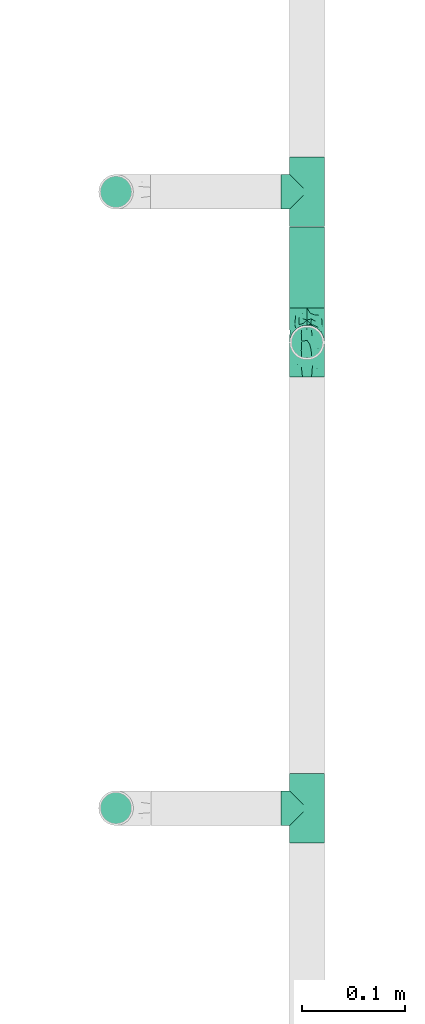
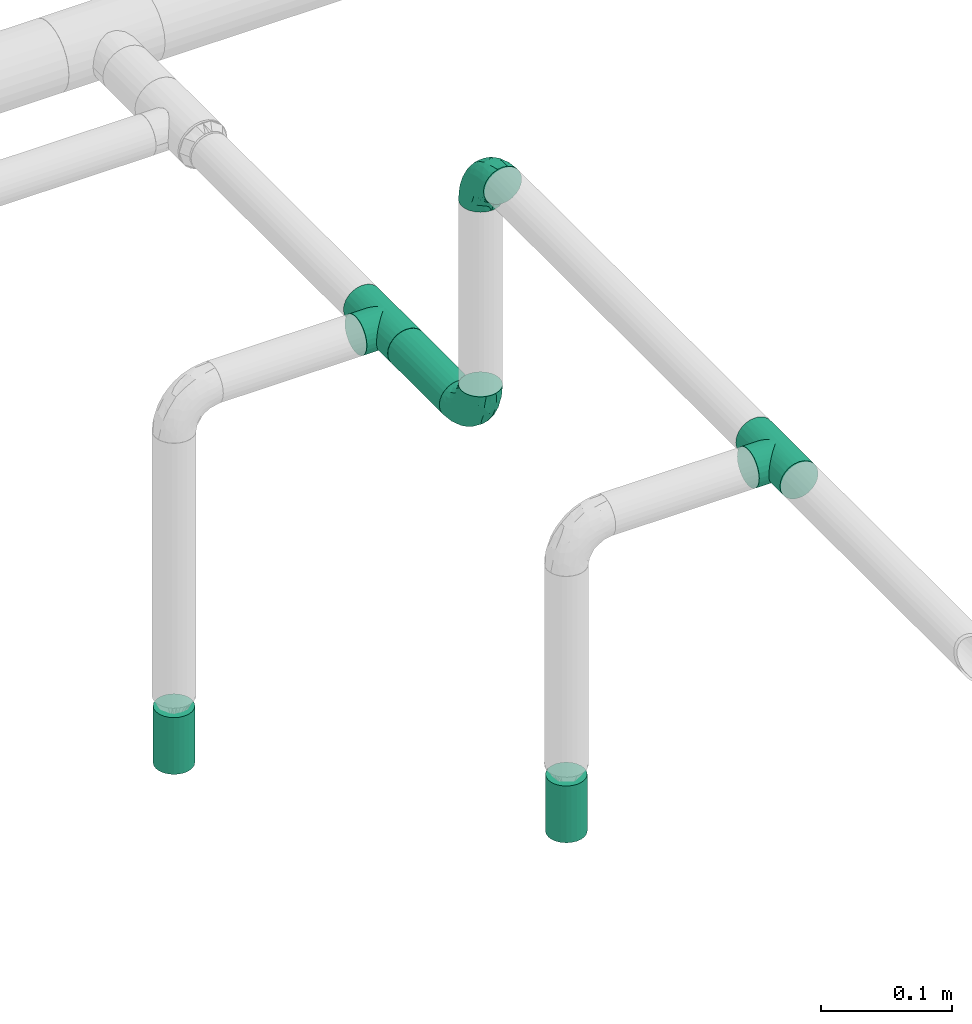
# One storey, part 55 of 157: 4 flow fittings, 2 flow terminals, 1 flow segment.
"""IFC2X3 building model written with IfcOpenShell, lengths in millimetres."""

from ifc_helpers import new_model, entity, si_unit, converted_unit, derived_unit, direction, frame, origin_with_axes, origin_2d_with_axis, place, context, subcontext, project, spatial, hollow_circle, extrude, open_shell, surface_model, source, transform, mapped, type_object, element, save


model = new_model("IFC2X3")

# Units and contexts
model_context = context("Model", 3, precision=0.01, world=frame((0.0, 4.29681676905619e-09, 0.0)), true_north=direction((4.01073788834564e-13, 1.0)))
plan_context = context("Plan", 3, precision=0.01, world=frame((0.0, 4.29681676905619e-09, 0.0)), true_north=direction((4.01073788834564e-13, 1.0)))
body_context = subcontext(model_context, "Body", "Model", "MODEL_VIEW")
ifc_project = project(units=[converted_unit("PLANEANGLEUNIT", "DEGREE", entity("IfcPositiveLengthMeasure", 0.0174532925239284), si_unit("PLANEANGLEUNIT", "RADIAN"), dimensions=[0, 0, 0, 0, 0, 0, 0]), si_unit("AREAUNIT", "SQUARE_METRE"), si_unit("LENGTHUNIT", "METRE", prefix="MILLI"), si_unit("MASSUNIT", "GRAM", prefix="KILO"), si_unit("POWERUNIT", "WATT"), si_unit("PRESSUREUNIT", "PASCAL"), si_unit("FORCEUNIT", "NEWTON", prefix="KILO"), si_unit("ELECTRICCURRENTUNIT", "AMPERE"), si_unit("THERMODYNAMICTEMPERATUREUNIT", "DEGREE_CELSIUS"), si_unit("TIMEUNIT", "SECOND"), si_unit("VOLUMEUNIT", "CUBIC_METRE"), derived_unit("LINEARVELOCITYUNIT", [(si_unit("LENGTHUNIT", "METRE"), 1), (si_unit("TIMEUNIT", "SECOND"), -1)]), derived_unit("VOLUMETRICFLOWRATEUNIT", [(si_unit("VOLUMEUNIT", "CUBIC_METRE"), 1), (si_unit("TIMEUNIT", "SECOND"), -1)]), derived_unit("THERMALTRANSMITTANCEUNIT", [(si_unit("POWERUNIT", "WATT"), 1), (si_unit("THERMODYNAMICTEMPERATUREUNIT", "KELVIN"), -1), (si_unit("AREAUNIT", "SQUARE_METRE"), -1)])], contexts=[model_context, plan_context])

# Site, building, storey
site_placement = place(None, frame((0.0, -4.29681676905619e-09, 0.0), z_axis=(0.0, 0.0, 1.0), x_axis=(1.0, 0.0, 0.0)))
site = spatial("IfcSite", under=ifc_project, at=site_placement, CompositionType="ELEMENT")
building_placement = place(site_placement, frame((0.0, 4.29681676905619e-09, 0.0), z_axis=(0.0, 0.0, 1.0), x_axis=(1.0, 0.0, 0.0)))
building = spatial("IfcBuilding", under=site, at=building_placement, Name="mc-building", CompositionType="ELEMENT")
storey_placement = place(building_placement, frame((0.0, 0.0, 204000.0), z_axis=(0.0, 0.0, 1.0), x_axis=(1.0, 0.0, 0.0)))
storey = spatial("IfcBuildingStorey", under=building, at=storey_placement, Name="Nivå D", CompositionType="ELEMENT", Elevation=204000.0)

# Flow fittings
pipe_fitting_type_1 = type_object("IfcPipeFittingType", Name="magi_pipe_fe_tee_centric_90_NOR", PredefinedType="JUNCTION")
shared_shape_1 = source(origin_with_axes(), body_context, "Body", "SurfaceModel", [
    surface_model("IfcShellBasedSurfaceModel", [(-33.8, 4.37404, -16.32415), (-33.8, 0.0, -16.9), (-33.8, 16.32415, -4.37404), (-33.8, 8.45, -14.63583), (-33.8, 11.9501, -11.9501), (-33.8, 14.63583, -8.45), (-33.8, -16.9, 0.0), (-33.8, -11.9501, -11.9501), (-33.8, -14.63583, -8.45), (-33.8, -8.45, -14.63583), (-33.8, -4.37404, -16.32415), (-33.8, -16.32415, -4.37404), (-33.8, 14.63583, 8.45), (-33.8, 16.32415, 4.37404), (-33.8, -8.45, 14.63583), (-33.8, 8.45, 14.63583), (-33.8, 11.9501, 11.9501), (-33.8, 4.37404, 16.32415), (-33.8, 0.0, 16.9), (-33.8, -11.9501, 11.9501), (-33.8, -14.63583, 8.45), (-33.8, -16.32415, 4.37404), (-33.8, -4.37404, 16.32415), (-33.8, 16.9, 0.0), (33.8, 4.37404, -16.32415), (33.8, -16.9, 0.0), (33.8, 0.0, -16.9), (33.8, 14.63583, -8.45), (33.8, 8.45, -14.63583), (33.8, 16.32415, -4.37404), (33.8, 11.9501, -11.9501), (33.8, -16.32415, 4.37404), (33.8, -8.45, -14.63583), (33.8, -4.37404, -16.32415), (33.8, -11.9501, -11.9501), (33.8, -14.63583, -8.45), (33.8, -16.32415, -4.37404), (33.8, 16.32415, 4.37404), (33.8, 8.45, 14.63583), (33.8, 14.63583, 8.45), (33.8, 11.9501, 11.9501), (33.8, -8.45, 14.63583), (33.8, 4.37404, 16.32415), (33.8, -14.63583, 8.45), (33.8, -11.9501, 11.9501), (33.8, 0.0, 16.9), (33.8, -4.37404, 16.32415), (33.8, 16.9, 0.0), (16.28698, -16.28698, 4.51047), (16.9, -16.9, 0.0), (14.62704, -14.62704, 8.4652), (9.47213, -9.47213, 13.99602), (12.26343, -12.26343, 11.62834), (-16.9, -16.9, 0.0), (-16.28698, -16.28698, 4.51047), (-14.62704, -14.62704, 8.4652), (-12.26343, -12.26343, 11.62834), (-9.47213, -9.47213, 13.99602), (-6.42894, -6.42894, 15.62942), (6.42894, -6.42894, 15.62942), (3.24522, -3.24522, 16.58549), (0.0, 0.0, 16.9), (-3.24522, -3.24522, 16.58549), (3.24522, -3.24522, -16.58549), (0.0, 0.0, -16.9), (-3.24522, -3.24522, -16.58549), (-6.42894, -6.42894, -15.62942), (6.42894, -6.42894, -15.62942), (9.47213, -9.47213, -13.99602), (12.26343, -12.26343, -11.62834), (14.62704, -14.62704, -8.4652), (16.28698, -16.28698, -4.51047), (-9.47213, -9.47213, -13.99602), (-12.26343, -12.26343, -11.62834), (-16.28698, -16.28698, -4.51047), (-14.62704, -14.62704, -8.4652), (4.37404, -25.35, -16.32415), (-16.9, -25.35, 0.0), (0.0, -25.35, -16.9), (14.63583, -25.35, -8.45), (8.45, -25.35, -14.63583), (16.32415, -25.35, -4.37404), (11.9501, -25.35, -11.9501), (-11.9501, -25.35, -11.9501), (-8.45, -25.35, -14.63583), (-4.37404, -25.35, -16.32415), (-14.63583, -25.35, -8.45), (-16.32415, -25.35, -4.37404), (16.9, -25.35, 0.0), (8.45, -25.35, 14.63583), (16.32415, -25.35, 4.37404), (14.63583, -25.35, 8.45), (-8.45, -25.35, 14.63583), (11.9501, -25.35, 11.9501), (4.37404, -25.35, 16.32415), (-16.32415, -25.35, 4.37404), (-11.9501, -25.35, 11.9501), (-14.63583, -25.35, 8.45), (0.0, -25.35, 16.9), (-4.37404, -25.35, 16.32415)], [open_shell([[[0, 1, 2]], [[3, 0, 4]], [[0, 2, 5]], [[4, 0, 5]], [[6, 2, 1]], [[7, 8, 9]], [[1, 10, 9]], [[11, 6, 8]], [[1, 9, 8]], [[1, 8, 6]], [[6, 12, 2]], [[12, 13, 2]], [[14, 12, 6]], [[12, 14, 15]], [[16, 12, 15]], [[17, 15, 18]], [[19, 14, 20]], [[21, 20, 14]], [[22, 18, 14]], [[14, 6, 21]], [[14, 18, 15]], [[23, 2, 13]], [[24, 25, 26]], [[27, 24, 28]], [[27, 29, 24]], [[27, 28, 30]], [[31, 25, 24]], [[26, 32, 33]], [[26, 34, 32]], [[35, 25, 36]], [[35, 34, 26]], [[25, 35, 26]], [[24, 29, 31]], [[29, 37, 38]], [[38, 37, 39]], [[38, 31, 29]], [[38, 39, 40]], [[41, 38, 42]], [[43, 41, 44]], [[41, 43, 31]], [[41, 45, 46]], [[41, 31, 38]], [[42, 45, 41]], [[29, 47, 37]], [[31, 43, 48]], [[25, 31, 49]], [[49, 31, 48]], [[43, 50, 48]], [[44, 41, 51]], [[50, 43, 52]], [[51, 52, 44]], [[52, 43, 44]], [[53, 54, 21]], [[53, 21, 6]], [[21, 54, 20]], [[54, 55, 20]], [[56, 57, 19]], [[19, 20, 56]], [[19, 57, 14]], [[56, 20, 55]], [[14, 57, 58]], [[51, 41, 59]], [[60, 45, 61]], [[59, 46, 60]], [[46, 59, 41]], [[60, 46, 45]], [[61, 45, 42]], [[39, 37, 13]], [[16, 38, 40]], [[12, 40, 39]], [[42, 38, 15]], [[23, 37, 47]], [[62, 61, 18]], [[62, 22, 58]], [[22, 62, 18]], [[58, 22, 14]], [[61, 17, 18]], [[42, 17, 61]], [[15, 17, 42]], [[15, 38, 16]], [[12, 16, 40]], [[13, 12, 39]], [[37, 23, 13]], [[5, 27, 30]], [[23, 47, 29]], [[30, 28, 3]], [[27, 2, 29]], [[26, 33, 63]], [[26, 64, 24]], [[64, 26, 63]], [[28, 24, 0]], [[64, 0, 24]], [[4, 30, 3]], [[2, 27, 5]], [[5, 30, 4]], [[2, 23, 29]], [[65, 66, 10]], [[1, 0, 64]], [[1, 65, 10]], [[66, 9, 10]], [[0, 3, 28]], [[1, 64, 65]], [[63, 33, 67]], [[32, 34, 68]], [[69, 68, 34]], [[35, 70, 69]], [[69, 34, 35]], [[32, 68, 67]], [[36, 25, 49]], [[36, 71, 35]], [[71, 36, 49]], [[35, 71, 70]], [[72, 9, 66]], [[72, 7, 9]], [[7, 72, 73]], [[7, 73, 8]], [[74, 53, 11]], [[75, 74, 8]], [[74, 11, 8]], [[11, 53, 6]], [[75, 8, 73]], [[32, 67, 33]], [[76, 77, 78]], [[79, 76, 80]], [[79, 81, 76]], [[79, 80, 82]], [[77, 76, 81]], [[78, 83, 84]], [[84, 85, 78]], [[86, 77, 87]], [[83, 78, 86]], [[77, 86, 78]], [[81, 88, 77]], [[89, 88, 90]], [[89, 90, 91]], [[92, 77, 89]], [[89, 91, 93]], [[92, 89, 94]], [[95, 96, 97]], [[96, 95, 92]], [[92, 98, 99]], [[95, 77, 92]], [[94, 98, 92]], [[89, 77, 88]], [[77, 95, 53]], [[54, 53, 95]], [[97, 96, 56]], [[96, 92, 57]], [[95, 97, 54]], [[58, 92, 99]], [[55, 54, 97]], [[56, 55, 97]], [[58, 57, 92]], [[98, 61, 62]], [[58, 99, 62]], [[56, 96, 57]], [[62, 99, 98]], [[94, 60, 98]], [[89, 59, 94]], [[91, 90, 48]], [[52, 93, 91]], [[93, 51, 89]], [[49, 90, 88]], [[59, 60, 94]], [[51, 59, 89]], [[49, 48, 90]], [[50, 52, 91]], [[48, 50, 91]], [[51, 93, 52]], [[98, 60, 61]], [[88, 81, 49]], [[71, 49, 81]], [[79, 82, 69]], [[82, 80, 68]], [[81, 79, 71]], [[67, 80, 76]], [[70, 71, 79]], [[69, 70, 79]], [[67, 68, 80]], [[78, 64, 63]], [[67, 76, 63]], [[69, 82, 68]], [[63, 76, 78]], [[85, 65, 78]], [[84, 66, 85]], [[86, 87, 74]], [[86, 73, 83]], [[72, 84, 83]], [[53, 87, 77]], [[66, 65, 85]], [[72, 66, 84]], [[53, 74, 87]], [[75, 73, 86]], [[74, 75, 86]], [[72, 83, 73]], [[78, 65, 64]]])]),
])
for number, where, z_axis, x_axis, name in (
    (1, (518685.97464, 413000.0, 2930.0), (0.0, 0.0, -1.0), (0.0, 1.0, 0.0), "magi_pipe_fe_tee_centric_90_NOR"),
    (2, (518685.97464, 413600.0, 2690.0), (0.0, 0.0, 1.0), (0.0, -1.0, 0.0), "magi_pipe_fe_tee_centric_90_NOR"),
):
    element("IfcFlowFitting", number, at=place(storey_placement, frame(where, z_axis=z_axis, x_axis=x_axis)), inside=storey, type_object=pipe_fitting_type_1, Name=name, context=body_context, shape_type="MappedRepresentation", body=[
        mapped(shared_shape_1, transform((0.0, 0.0, 0.0), scale=1.0)),
    ])
pipe_fitting_type_2 = type_object("IfcPipeFittingType", Name="magi_pipe_fe_elbow_short_001", PredefinedType="BEND")
shared_shape_2 = source(origin_with_axes(), body_context, "Body", "SurfaceModel", [
    surface_model("IfcShellBasedSurfaceModel", [(-33.8, 8.45, -14.63583), (-33.8, 4.37404, -16.32415), (-33.8, 11.9501, -11.9501), (-33.8, -11.9501, -11.9501), (-33.8, -14.63583, -8.45), (-33.8, -8.45, -14.63583), (-33.8, 0.0, -16.9), (-33.8, -4.37404, -16.32415), (-33.8, -4.37404, 16.32415), (-33.8, 0.0, 16.9), (-33.8, -8.45, 14.63583), (-33.8, 16.32415, -4.37404), (-33.8, 14.63583, -8.45), (-33.8, -16.32415, -4.37404), (-33.8, -16.9, 0.0), (-33.8, -16.32415, 4.37404), (-33.8, 11.9501, 11.9501), (-33.8, 14.63583, 8.45), (-33.8, 16.32415, 4.37404), (-33.8, 4.37404, 16.32415), (-33.8, 8.45, 14.63583), (-33.8, -14.63583, 8.45), (-33.8, -11.9501, 11.9501), (-33.8, 16.9, 0.0), (-11.9501, 33.8, -11.9501), (0.0, 33.8, -16.9), (-4.37404, 33.8, -16.32415), (-8.45, 33.8, -14.63583), (-14.63583, 33.8, -8.45), (-16.32415, 33.8, -4.37404), (14.63583, 33.8, -8.45), (8.45, 33.8, 14.63583), (16.32415, 33.8, -4.37404), (8.45, 33.8, -14.63583), (11.9501, 33.8, -11.9501), (4.37404, 33.8, -16.32415), (16.32415, 33.8, 4.37404), (16.9, 33.8, 0.0), (-11.9501, 33.8, 11.9501), (-16.32415, 33.8, 4.37404), (-14.63583, 33.8, 8.45), (-8.45, 33.8, 14.63583), (-4.37404, 33.8, 16.32415), (11.9501, 33.8, 11.9501), (14.63583, 33.8, 8.45), (0.0, 33.8, 16.9), (4.37404, 33.8, 16.32415), (-16.9, 33.8, 0.0), (-24.79389, -13.12945, 9.48721), (-22.19287, -9.75018, 12.59315), (-24.09897, -14.97035, 0.0), (-14.93934, -10.76256, 8.5297), (-22.46095, -14.75051, 5.27077), (14.75051, 22.46094, 5.27077), (11.9251, 13.23888, 4.33236), (13.04069, 14.39795, 0.0), (7.71387, 13.68847, 11.55891), (9.75018, 22.19287, 12.59315), (4.10169, 13.0571, 14.04018), (-24.84007, -6.39063, 15.2048), (-25.81779, -2.23879, 16.61097), (-23.66549, 2.59054, 16.87119), (-26.50418, 14.06512, 11.08152), (-24.21253, 17.66365, 7.72657), (-29.58514, 15.86957, 7.00283), (-6.17382, -7.5455, 0.0), (-13.23888, -11.9251, 4.33236), (-14.39795, -13.04069, 0.0), (-17.81434, 18.87373, 11.97104), (-6.30846, 29.15138, 15.82987), (-2.31622, 25.28002, 16.85849), (-29.23923, 10.23435, 13.77053), (-1.45439, -2.85688, 7.61475), (-0.28326, 0.34872, 10.09509), (-5.74484, -4.04709, 10.4122), (-4.41137, 11.31918, 16.59407), (-8.39727, 3.10034, 15.7812), (-1.72649, 9.1306, 15.53089), (-17.39909, 24.75344, 7.64977), (-26.19233, 20.0512, 0.0), (-28.14518, 17.29657, 4.25857), (-26.05147, 6.6281, 15.96447), (-5.87354, 16.61944, 16.86968), (-12.51807, 12.51807, 16.48937), (-10.06312, 7.38516, 16.81295), (-3.01882, 3.01882, 13.81718), (-13.0571, -4.10169, 14.04018), (-16.82553, -0.15166, 16.38038), (10.76256, 14.93934, 8.5297), (13.12945, 24.79389, 9.48721), (6.39063, 24.84007, 15.2048), (2.23879, 25.81779, 16.61097), (-13.68847, -7.71387, 11.55891), (14.97035, 24.09897, 0.0), (-7.30894, 22.89991, 16.09489), (-10.67958, 26.17414, 14.008), (-12.78295, 18.26924, 15.06066), (-13.88562, 22.45231, 12.93244), (-18.04944, 15.16501, 14.04434), (-23.11658, 20.08178, 4.02986), (-21.84989, 21.84989, 0.0), (-18.55817, 25.48277, 3.93065), (-13.95142, 26.94732, 11.03289), (-18.57098, 7.23906, 16.59756), (-16.58335, 4.14122, 16.89279), (-17.96666, 11.46709, 15.63151), (-9.84453, 17.54304, 16.18938), (0.15166, 16.82553, 16.38038), (-23.27207, 11.47201, 14.23154), (3.84842, 5.86994, 10.70473), (-8.0212, -7.54413, 7.93275), (1.00345, -2.19508, 4.57414), (5.13203, 3.01004, 5.90201), (5.24161, 1.7543, 2.53265), (8.70457, 7.04947, 3.99182), (-20.0512, 26.19233, 0.0), (8.4852, 8.76699, 7.09296), (-4.55488, -6.72064, 4.90681), (2.05031, -2.05031, 0.0), (7.5455, 6.17382, 0.0), (-26.75399, 2.1369, -16.845), (-14.61995, 24.73803, -11.27736), (-28.45274, -13.45335, -9.81895), (-26.00469, 6.63555, -15.96645), (-23.06726, 20.04573, -4.26202), (-13.80647, -4.26506, -14.17873), (-14.67501, -0.21081, -16.07388), (-6.7902, -0.2828, -13.8478), (-24.53586, 11.08096, -14.13417), (-26.72048, 14.00837, -11.05776), (10.0967, 24.44989, -12.75976), (5.83237, 21.40218, -15.03047), (6.66249, 28.54238, -15.38093), (-20.38182, 15.48705, -12.74596), (12.53268, 21.23441, -9.15363), (12.54494, 15.67504, -5.54878), (9.7522, 12.89279, -8.66343), (-15.65186, 19.64213, -13.01327), (-12.03528, 20.66498, -14.67665), (-15.61907, 15.61906, -14.83879), (-25.56551, -15.26206, 0.0), (-24.65452, -15.12934, -5.50955), (13.45335, 28.45274, -9.81895), (15.12934, 24.65452, -5.50955), (-7.35442, -8.31014, -5.65563), (-15.67504, -12.54494, -5.54878), (-24.44989, -10.0967, -12.75976), (0.16522, 0.41303, -9.71728), (-5.70658, -5.33066, -8.89288), (-5.13869, -2.37198, -11.53565), (-21.23441, -12.53268, -9.15363), (0.71146, 7.93863, -14.09382), (0.21081, 14.67501, -16.07388), (3.49291, 14.42772, -14.76381), (-24.89911, -2.13088, -16.591), (-28.54238, -6.66249, -15.38093), (-18.44386, -7.71663, -13.26957), (2.13088, 24.89911, -16.591), (-28.64342, 17.44413, -2.89318), (1.70017, -1.28722, -5.09504), (-16.57067, 26.81947, -7.36596), (-17.69055, 27.4263, -3.76405), (-12.89279, -9.7522, -8.66343), (-5.96611, 5.96611, -15.95814), (-20.53709, 20.09345, -8.28985), (-2.1369, 26.75399, -16.845), (-6.89872, 24.58781, -16.02578), (-10.60739, 26.53157, -13.98044), (-21.40218, -5.83237, -15.03047), (2.93192, 5.89627, -11.55917), (6.89393, 12.61842, -11.82233), (5.58056, 5.95325, -8.79455), (-3.99512, 18.61798, -16.89635), (8.31014, 7.35442, -5.65563), (-9.1383, 9.86148, -16.89041), (-9.99983, 16.02119, -16.39699), (-16.68576, 9.78031, -16.34199), (-27.01915, 16.61158, -7.12979), (15.26206, 25.56551, 0.0), (-18.61798, 3.99512, -16.89635), (-19.37495, 27.82495, 0.0), (-12.61842, -6.89393, -11.82233), (-18.84705, 19.14018, -10.96545)], [open_shell([[[0, 1, 2]], [[3, 4, 5]], [[6, 7, 5]], [[8, 9, 10]], [[1, 6, 2]], [[11, 12, 2]], [[4, 2, 6]], [[2, 13, 10]], [[5, 4, 6]], [[2, 4, 13]], [[14, 15, 13]], [[11, 2, 16]], [[11, 17, 18]], [[11, 16, 17]], [[19, 20, 16]], [[16, 2, 10]], [[19, 16, 10]], [[21, 22, 15]], [[22, 13, 15]], [[22, 10, 13]], [[10, 9, 19]], [[11, 18, 23]], [[24, 25, 26]], [[24, 26, 27]], [[24, 28, 29]], [[25, 24, 30]], [[31, 32, 24]], [[33, 30, 34]], [[33, 35, 25]], [[25, 30, 33]], [[32, 30, 24]], [[32, 36, 37]], [[38, 24, 29]], [[39, 40, 29]], [[40, 38, 29]], [[38, 41, 42]], [[38, 31, 24]], [[31, 38, 42]], [[36, 43, 44]], [[36, 32, 43]], [[31, 45, 46]], [[32, 31, 43]], [[42, 45, 31]], [[39, 29, 47]], [[22, 48, 49]], [[15, 14, 50]], [[51, 48, 52]], [[53, 54, 55]], [[48, 22, 21]], [[15, 52, 21]], [[56, 57, 58]], [[49, 10, 22]], [[49, 59, 10]], [[9, 60, 61]], [[62, 63, 64]], [[65, 66, 67]], [[57, 43, 31]], [[62, 68, 63]], [[42, 69, 70]], [[20, 71, 16]], [[8, 60, 9]], [[72, 73, 74]], [[75, 76, 77]], [[16, 62, 17]], [[40, 39, 78]], [[79, 23, 80]], [[64, 18, 17]], [[9, 61, 19]], [[19, 81, 20]], [[82, 83, 84]], [[74, 85, 86]], [[59, 86, 87]], [[88, 89, 57]], [[90, 31, 46]], [[44, 53, 36]], [[46, 45, 91]], [[54, 53, 88]], [[44, 89, 53]], [[92, 86, 49]], [[89, 44, 43]], [[10, 59, 8]], [[53, 55, 93]], [[93, 36, 53]], [[66, 52, 67]], [[94, 82, 70]], [[95, 96, 94]], [[97, 98, 96]], [[79, 99, 100]], [[41, 38, 95]], [[101, 100, 99]], [[68, 78, 63]], [[42, 41, 69]], [[23, 18, 80]], [[95, 94, 69]], [[78, 101, 99]], [[38, 102, 95]], [[70, 45, 42]], [[97, 95, 102]], [[15, 50, 52]], [[90, 57, 31]], [[57, 90, 58]], [[81, 19, 61]], [[103, 104, 84]], [[105, 81, 103]], [[38, 40, 102]], [[106, 96, 83]], [[94, 106, 82]], [[91, 70, 107]], [[71, 62, 16]], [[62, 108, 98]], [[86, 59, 49]], [[67, 52, 50]], [[60, 59, 87]], [[92, 49, 51]], [[86, 85, 76]], [[91, 90, 46]], [[37, 36, 93]], [[107, 77, 58]], [[107, 58, 90]], [[58, 85, 109]], [[110, 74, 92]], [[72, 74, 110]], [[66, 51, 52]], [[72, 111, 112]], [[113, 114, 112]], [[56, 88, 57]], [[52, 48, 21]], [[49, 48, 51]], [[57, 89, 43]], [[53, 89, 88]], [[103, 81, 61]], [[71, 81, 108]], [[18, 64, 80]], [[63, 78, 99]], [[47, 115, 101]], [[101, 115, 100]], [[40, 78, 102]], [[68, 102, 78]], [[97, 96, 95]], [[105, 98, 108]], [[103, 84, 83]], [[107, 70, 82]], [[76, 84, 87]], [[82, 84, 75]], [[70, 91, 45]], [[90, 91, 107]], [[59, 60, 8]], [[61, 60, 87]], [[73, 85, 74]], [[109, 112, 116]], [[103, 61, 104]], [[105, 103, 83]], [[96, 105, 83]], [[81, 105, 108]], [[96, 98, 105]], [[62, 98, 68]], [[61, 87, 104]], [[87, 84, 104]], [[86, 76, 87]], [[77, 76, 85]], [[58, 77, 85]], [[75, 77, 107]], [[82, 75, 107]], [[76, 75, 84]], [[81, 71, 20]], [[62, 71, 108]], [[95, 69, 41]], [[70, 69, 94]], [[62, 64, 17]], [[80, 63, 99]], [[63, 80, 64]], [[80, 99, 79]], [[66, 65, 117]], [[110, 66, 117]], [[112, 114, 116]], [[118, 117, 65]], [[110, 92, 51]], [[112, 111, 113]], [[119, 55, 54]], [[74, 86, 92]], [[58, 109, 56]], [[116, 56, 109]], [[66, 110, 51]], [[72, 110, 117]], [[111, 72, 117]], [[73, 112, 109]], [[117, 118, 111]], [[113, 111, 118]], [[118, 119, 113]], [[114, 119, 54]], [[119, 114, 113]], [[116, 54, 88]], [[54, 116, 114]], [[116, 88, 56]], [[112, 73, 72]], [[85, 73, 109]], [[78, 39, 101]], [[47, 101, 39]], [[102, 68, 97]], [[97, 68, 98]], [[82, 106, 83]], [[94, 96, 106]], [[1, 120, 6]], [[28, 24, 121]], [[3, 122, 4]], [[0, 123, 1]], [[100, 124, 79]], [[125, 126, 127]], [[128, 2, 129]], [[130, 131, 132]], [[128, 129, 133]], [[134, 135, 136]], [[137, 138, 139]], [[128, 0, 2]], [[67, 140, 141]], [[134, 142, 143]], [[141, 13, 4]], [[144, 65, 145]], [[146, 3, 5]], [[147, 148, 149]], [[145, 141, 150]], [[151, 152, 153]], [[154, 7, 6]], [[5, 155, 146]], [[150, 146, 156]], [[155, 5, 7]], [[143, 135, 134]], [[35, 157, 25]], [[23, 79, 158]], [[148, 159, 144]], [[160, 161, 29]], [[145, 162, 144]], [[163, 152, 151]], [[29, 28, 160]], [[121, 164, 160]], [[33, 34, 130]], [[25, 165, 26]], [[26, 165, 166]], [[142, 34, 30]], [[24, 27, 167]], [[124, 161, 164]], [[157, 35, 132]], [[155, 154, 168]], [[123, 0, 128]], [[169, 170, 171]], [[172, 157, 152]], [[26, 166, 27]], [[132, 35, 33]], [[142, 130, 34]], [[168, 154, 126]], [[136, 135, 173]], [[133, 137, 139]], [[2, 12, 129]], [[170, 131, 130]], [[30, 32, 143]], [[172, 174, 175]], [[176, 123, 128]], [[158, 177, 11]], [[135, 55, 119]], [[167, 27, 166]], [[175, 166, 172]], [[137, 167, 138]], [[122, 141, 4]], [[140, 14, 13]], [[32, 37, 178]], [[170, 130, 134]], [[152, 157, 131]], [[165, 157, 172]], [[153, 170, 151]], [[152, 163, 174]], [[168, 125, 156]], [[122, 146, 150]], [[120, 154, 6]], [[179, 174, 126]], [[179, 126, 154]], [[126, 163, 127]], [[162, 145, 150]], [[140, 13, 141]], [[32, 178, 143]], [[55, 143, 178]], [[177, 129, 12]], [[128, 133, 139]], [[176, 128, 139]], [[120, 123, 179]], [[121, 160, 28]], [[161, 100, 180]], [[166, 175, 138]], [[121, 24, 167]], [[161, 47, 29]], [[79, 124, 158]], [[124, 164, 177]], [[161, 124, 100]], [[136, 171, 170]], [[127, 163, 151]], [[147, 171, 159]], [[148, 144, 162]], [[127, 151, 169]], [[127, 181, 125]], [[129, 177, 164]], [[12, 11, 177]], [[159, 65, 144]], [[67, 141, 145]], [[143, 55, 135]], [[135, 119, 173]], [[123, 120, 1]], [[154, 120, 179]], [[157, 165, 25]], [[166, 165, 172]], [[172, 152, 174]], [[176, 139, 175]], [[126, 174, 163]], [[176, 174, 179]], [[174, 176, 175]], [[123, 176, 179]], [[150, 181, 162]], [[127, 149, 181]], [[181, 148, 162]], [[159, 148, 147]], [[171, 136, 173]], [[170, 134, 136]], [[159, 171, 173]], [[171, 147, 169]], [[169, 147, 149]], [[151, 170, 169]], [[164, 182, 129]], [[182, 121, 137]], [[181, 149, 148]], [[169, 149, 127]], [[182, 137, 133]], [[167, 137, 121]], [[166, 138, 167]], [[175, 139, 138]], [[129, 182, 133]], [[121, 182, 164]], [[161, 160, 164]], [[47, 161, 180]], [[177, 158, 124]], [[23, 158, 11]], [[130, 132, 33]], [[157, 132, 131]], [[143, 142, 30]], [[130, 142, 134]], [[154, 155, 7]], [[146, 155, 168]], [[146, 122, 3]], [[141, 122, 150]], [[152, 131, 153]], [[159, 119, 118]], [[67, 145, 65]], [[170, 153, 131]], [[119, 159, 173]], [[159, 118, 65]], [[156, 125, 181]], [[126, 125, 168]], [[150, 156, 181]], [[168, 156, 146]]])]),
])
for number, where, z_axis, x_axis, name in (
    (3, (518685.97464, 413453.32717, 2690.0), (-1.0, 0.0, 0.0), (0.0, -1.0, 0.0), "magi_pipe_fe_elbow_short_001"),
    (4, (518685.97464, 413453.32717, 2930.0), (1.0, 0.0, 0.0), (0.0, 0.0, 1.0), "magi_pipe_fe_elbow_short_001"),
):
    element("IfcFlowFitting", number, at=place(storey_placement, frame(where, z_axis=z_axis, x_axis=x_axis)), inside=storey, type_object=pipe_fitting_type_2, Name=name, context=body_context, shape_type="MappedRepresentation", body=[
        mapped(shared_shape_2, transform((0.0, 0.0, 0.0), scale=1.0)),
    ])

# Flow segment
pipe_segment_type = type_object("IfcPipeSegmentType", Name="Stålrør normaltykke", PredefinedType="RIGIDSEGMENT")
shared_shape_3 = source(origin_with_axes(), body_context, "Body", "SweptSolid", [
    extrude(hollow_circle(Radius=16.9, WallThickness=2.0, at=origin_2d_with_axis()), frame((0.0, 0.0, 0.0), z_axis=(1.0, 0.0, 0.0), x_axis=(0.0, 1.0, 0.0)), (0.0, 0.0, 1.0), 78.8),
])
flow_segment_placement = place(storey_placement, frame((518685.97464, 413487.12717, 2690.0), z_axis=(0.0, 0.0, 1.0), x_axis=(0.0, 1.0, 0.0)))
element("IfcFlowSegment", 5, at=flow_segment_placement, inside=storey, type_object=pipe_segment_type, Name="Stålrør normaltykke", context=body_context, shape_type="MappedRepresentation", body=[
    mapped(shared_shape_3, transform((0.0, 0.0, 0.0), scale=1.0)),
])

# Flow terminals
fire_suppression_terminal_type = type_object("IfcFireSuppressionTerminalType", Name="SP-15-K80-68DGR-STD-HIMLING", PredefinedType="NOTDEFINED")
shared_shape_4 = source(origin_with_axes(), body_context, "Body", "SurfaceModel", [
    surface_model("IfcShellBasedSurfaceModel", [(4.1411, -15.45481, 53.0), (8.0, -13.85641, 53.0), (11.31371, -11.31371, 53.0), (-8.0, -13.85641, 53.0), (15.45481, -4.1411, 53.0), (16.0, 0.0, 53.0), (13.85641, -8.0, 53.0), (0.0, -16.0, 53.0), (-4.1411, -15.45481, 53.0), (-13.85641, -8.0, 53.0), (-11.31371, -11.31371, 53.0), (-15.45481, -4.1411, 53.0), (15.45481, 4.1411, 53.0), (13.85641, 8.0, 53.0), (11.31371, 11.31371, 53.0), (-4.1411, 15.45481, 53.0), (8.0, 13.85641, 53.0), (4.1411, 15.45481, 53.0), (0.0, 16.0, 53.0), (-13.85641, 8.0, 53.0), (-15.45481, 4.1411, 53.0), (-16.0, 0.0, 53.0), (-11.31371, 11.31371, 53.0), (-8.0, 13.85641, 53.0), (0.0, 16.0, 0.0), (4.1411, 15.45481, 0.0), (8.0, 13.85641, 0.0), (-4.1411, 15.45481, 0.0), (11.31371, 11.31371, 0.0), (13.85641, 8.0, 0.0), (15.45481, 4.1411, 0.0), (-15.45481, -4.1411, 0.0), (-11.31371, 11.31371, 0.0), (-8.0, 13.85641, 0.0), (-13.85641, 8.0, 0.0), (-15.45481, 4.1411, 0.0), (-16.0, 0.0, 0.0), (4.1411, -15.45481, 0.0), (16.0, 0.0, 0.0), (15.45481, -4.1411, 0.0), (13.85641, -8.0, 0.0), (11.31371, -11.31371, 0.0), (8.0, -13.85641, 0.0), (-8.0, -13.85641, 0.0), (-13.85641, -8.0, 0.0), (-11.31371, -11.31371, 0.0), (0.0, -16.0, 0.0), (-4.1411, -15.45481, 0.0)], [open_shell([[[0, 1, 2]], [[3, 0, 2]], [[4, 5, 2]], [[4, 2, 6]], [[3, 2, 5]], [[7, 3, 8]], [[7, 0, 3]], [[3, 9, 10]], [[9, 3, 11]], [[5, 11, 3]], [[5, 12, 11]], [[12, 13, 14]], [[15, 12, 14]], [[16, 17, 18]], [[14, 16, 15]], [[18, 15, 16]], [[11, 19, 20]], [[21, 11, 20]], [[22, 15, 23]], [[15, 22, 19]], [[19, 11, 15]], [[11, 12, 15]], [[24, 25, 26]], [[27, 24, 26]], [[28, 29, 30]], [[27, 26, 28]], [[27, 28, 31]], [[27, 32, 33]], [[32, 27, 34]], [[34, 31, 35]], [[31, 34, 27]], [[35, 31, 36]], [[28, 30, 31]], [[37, 38, 39]], [[37, 39, 40]], [[41, 42, 37]], [[41, 37, 40]], [[38, 37, 43]], [[44, 43, 45]], [[43, 44, 31]], [[43, 46, 47]], [[43, 31, 38]], [[37, 46, 43]], [[38, 31, 30]], [[11, 31, 44]], [[45, 9, 44]], [[3, 43, 47]], [[45, 43, 10]], [[8, 47, 46]], [[31, 21, 36]], [[31, 11, 21]], [[44, 9, 11]], [[45, 10, 9]], [[3, 10, 43]], [[47, 8, 3]], [[46, 7, 8]], [[0, 37, 42]], [[41, 1, 42]], [[6, 40, 39]], [[41, 40, 2]], [[4, 39, 38]], [[37, 0, 7]], [[42, 1, 0]], [[41, 2, 1]], [[40, 6, 2]], [[4, 6, 39]], [[38, 5, 4]], [[37, 7, 46]], [[12, 38, 30]], [[13, 30, 29]], [[16, 26, 25]], [[17, 25, 24]], [[30, 13, 12]], [[12, 5, 38]], [[28, 14, 13]], [[28, 26, 14]], [[14, 26, 16]], [[25, 17, 16]], [[28, 13, 29]], [[24, 18, 17]], [[15, 27, 33]], [[32, 23, 33]], [[19, 34, 35]], [[32, 34, 22]], [[20, 35, 36]], [[27, 15, 18]], [[33, 23, 15]], [[32, 22, 23]], [[34, 19, 22]], [[20, 19, 35]], [[36, 21, 20]], [[27, 18, 24]]])]),
])
for number, where, z_axis, x_axis in (
    (6, (518500.0, 413600.0, 2400.0), (0.0, 0.0, -1.0), (1.0, 0.0, 0.0)),
    (7, (518500.0, 413000.0, 2700.0), (0.0, 0.0, -1.0), (1.0, 0.0, 0.0)),
):
    element("IfcFlowTerminal", number, at=place(storey_placement, frame(where, z_axis=z_axis, x_axis=x_axis)), inside=storey, type_object=fire_suppression_terminal_type, Name="SP-15-K80-68DGR-STD-HIMLING", context=body_context, shape_type="MappedRepresentation", body=[
        mapped(shared_shape_4, transform((0.0, 0.0, 0.0), scale=1.0)),
    ])

save(model, "model.ifc")
